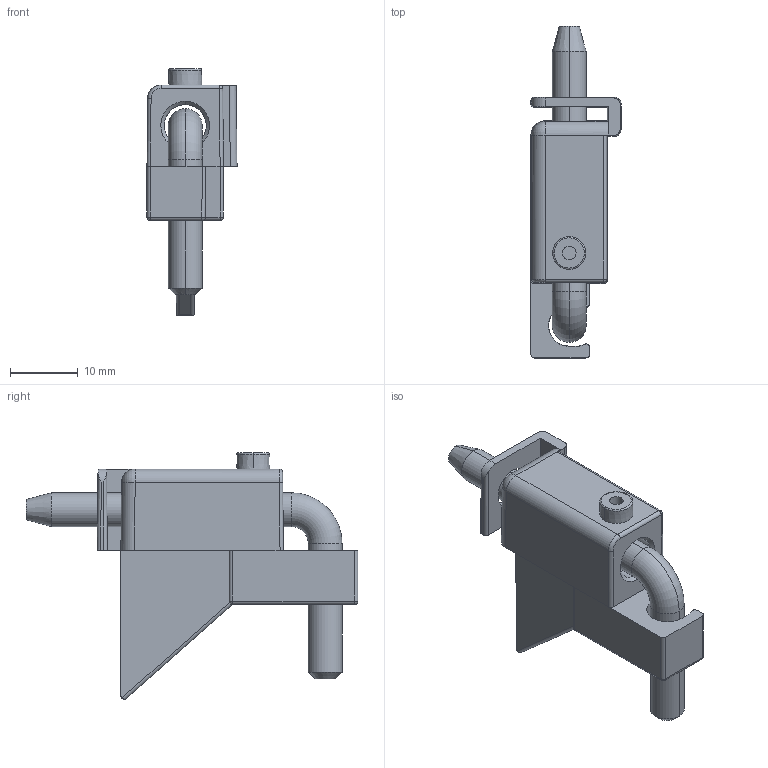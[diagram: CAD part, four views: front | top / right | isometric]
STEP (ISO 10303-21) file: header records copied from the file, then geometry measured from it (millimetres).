
FILE_DESCRIPTION (( 'STEP AP214' ), '1' );
FILE_NAME ('3.ST96.003.STEP', '2025-06-03T07:12:46', ( '' ), ( '' ), 'SwSTEP 2.0', 'SolidWorks 2021', '' );
FILE_SCHEMA (( 'AUTOMOTIVE_DESIGN' ));
Length unit declared in the file: millimetre
Products named in the file (3): 3.ST96.003; 3.ST96.001.02_C; 3.ST96.003.01_A
Assembly tree (2 placements, depth 2):
  3.ST96.003
    3.ST96.003.01_A
    3.ST96.001.02_C
Bounding box: 13.3 x 49 x 36.39 mm (x, y, z)
Volume: 5769.6 mm3; surface area: 4577.6 mm2
Topology: 2 solids, 2 shells, 123 faces, 293 edges, 174 vertices
Faces by surface type: plane 44, cylinder 41, bspline 11, cone 10, sphere 9, torus 8
Entity records: 4121 total; most frequent: CARTESIAN_POINT 1323, ORIENTED_EDGE 576, DIRECTION 543, EDGE_CURVE 288, AXIS2_PLACEMENT_3D 196, VERTEX_POINT 174, LINE 151, VECTOR 151
